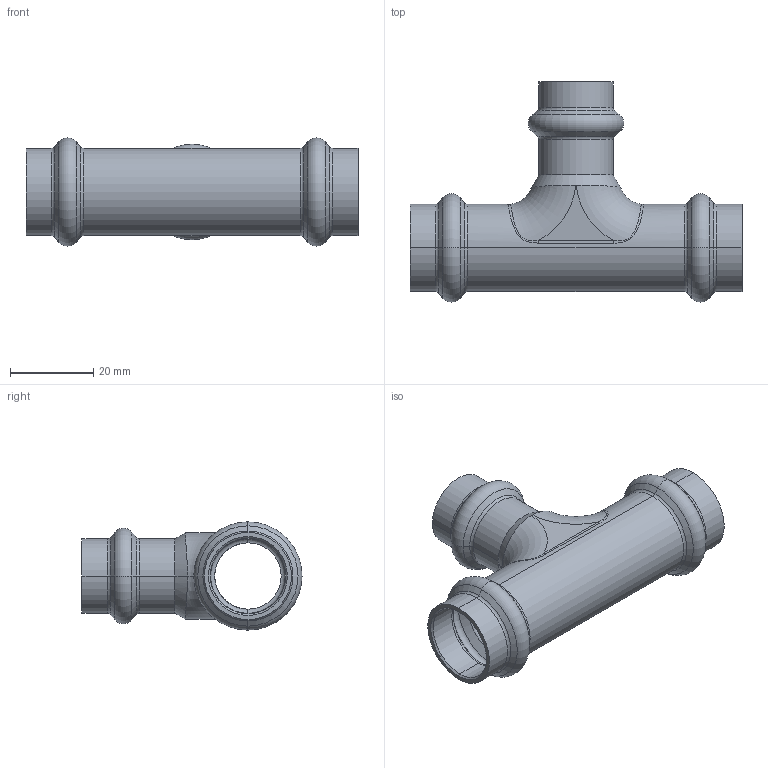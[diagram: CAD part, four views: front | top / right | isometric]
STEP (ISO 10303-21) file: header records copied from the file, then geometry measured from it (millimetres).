
FILE_DESCRIPTION (( 'STEP AP203' ), '1' );
FILE_NAME ('SP5130 Ø18-15-18.STEP', '2017-04-25T14:16:53', ( '' ), ( '' ), 'SwSTEP 2.0', 'SolidWorks 2016', '' );
FILE_SCHEMA (( 'CONFIG_CONTROL_DESIGN' ));
Length unit declared in the file: millimetre
Products named in the file (1): SP5130 Ø18-15-18
Bounding box: 80 x 53.05 x 26.1 mm (x, y, z)
Volume: 12379.9 mm3; surface area: 14012.1 mm2
Topology: 1 solids, 1 shells, 129 faces, 277 edges, 148 vertices
Faces by surface type: torus 46, cone 36, cylinder 34, plane 7, bspline 6
Entity records: 5034 total; most frequent: CARTESIAN_POINT 2162, DIRECTION 663, ORIENTED_EDGE 546, AXIS2_PLACEMENT_3D 297, EDGE_CURVE 273, CIRCLE 173, VERTEX_POINT 148, EDGE_LOOP 135
